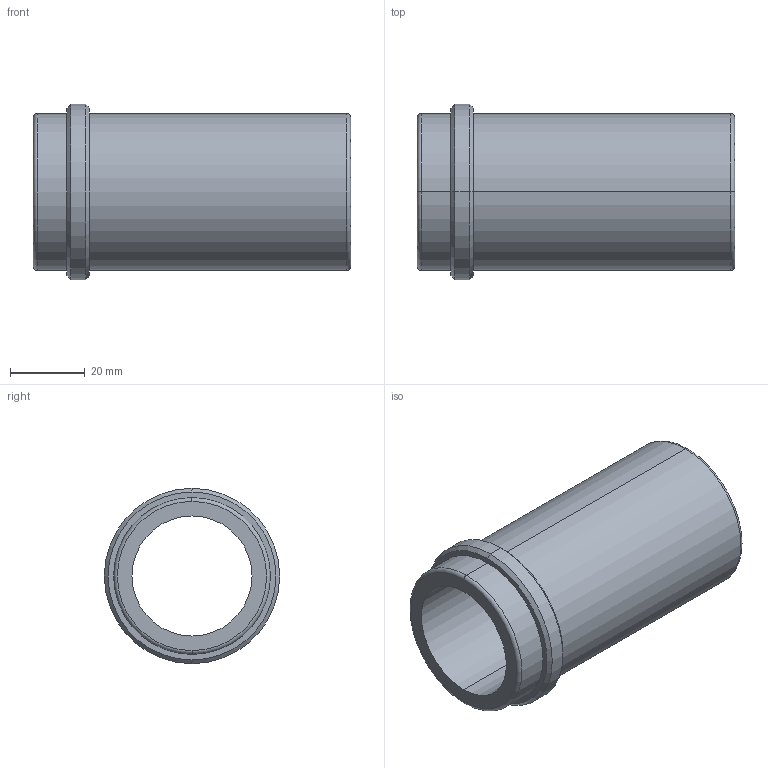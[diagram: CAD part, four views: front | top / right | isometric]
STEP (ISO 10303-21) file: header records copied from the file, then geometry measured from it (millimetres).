
FILE_DESCRIPTION (( 'STEP AP214' ), '1' );
FILE_NAME ('BR10 32x76.STEP', '2019-12-04T16:21:02', ( 'August' ), ( '' ), 'SwSTEP 2.0', 'SolidWorks 2018', '' );
FILE_SCHEMA (( 'AUTOMOTIVE_DESIGN' ));
Length unit declared in the file: millimetre
Products named in the file (1): BR10 32x76
Bounding box: 85 x 47 x 47 mm (x, y, z)
Volume: 50439.8 mm3; surface area: 21459.8 mm2
Topology: 1 solids, 1 shells, 20 faces, 40 edges, 24 vertices
Faces by surface type: cylinder 8, cone 4, torus 4, plane 4
Entity records: 566 total; most frequent: DIRECTION 110, CARTESIAN_POINT 85, ORIENTED_EDGE 80, AXIS2_PLACEMENT_3D 49, EDGE_CURVE 40, CIRCLE 28, VERTEX_POINT 24, EDGE_LOOP 24
